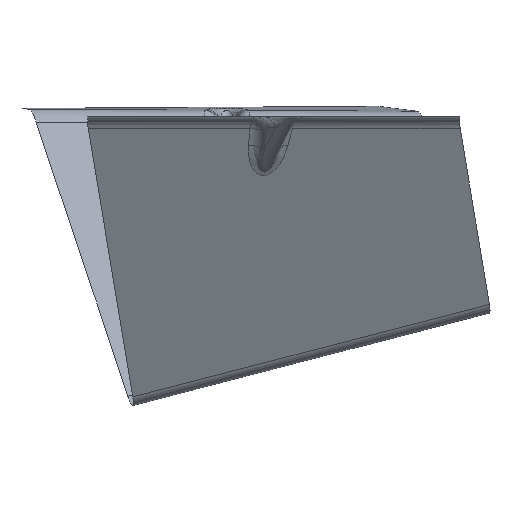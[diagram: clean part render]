
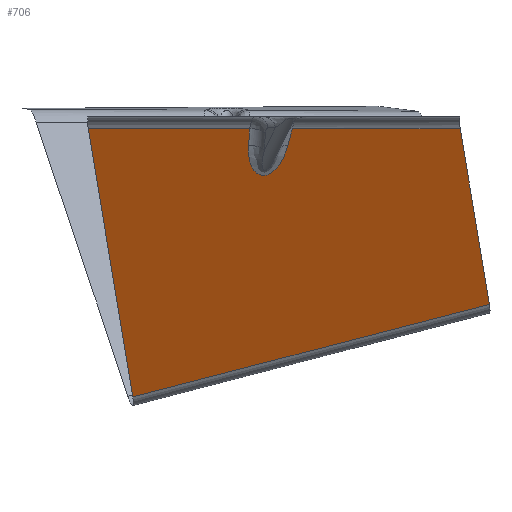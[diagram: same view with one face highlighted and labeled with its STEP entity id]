
A CAD part, left-side view. The second image highlights one B-rep face of the part: STEP entity #706.
In plain terms, the highlighted planar face has unit normal (-0.83, -0.249, -0.5).
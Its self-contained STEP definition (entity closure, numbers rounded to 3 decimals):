
#251=CARTESIAN_POINT('Vertex',(-80.11,6.505,-1.7)) ;
#274=CARTESIAN_POINT('Line Origine',(-64.509,8.338,-28.494)) ;
#278=CARTESIAN_POINT('Vertex',(-77.478,6.814,-6.22)) ;
#591=CARTESIAN_POINT('Control Point',(-74.309,-3.75,-6.22)) ;
#592=CARTESIAN_POINT('Control Point',(-74.115,-3.653,-6.59)) ;
#593=CARTESIAN_POINT('Control Point',(-73.924,-3.545,-6.961)) ;
#594=CARTESIAN_POINT('Control Point',(-73.737,-3.427,-7.33)) ;
#595=CARTESIAN_POINT('Control Point',(-73.375,-3.173,-8.057)) ;
#596=CARTESIAN_POINT('Control Point',(-73.03,-2.874,-8.778)) ;
#597=CARTESIAN_POINT('Control Point',(-72.864,-2.716,-9.133)) ;
#598=CARTESIAN_POINT('Control Point',(-72.557,-2.392,-9.802)) ;
#599=CARTESIAN_POINT('Control Point',(-72.271,-2.018,-10.463)) ;
#600=CARTESIAN_POINT('Control Point',(-72.141,-1.829,-10.773)) ;
#601=CARTESIAN_POINT('Control Point',(-71.91,-1.455,-11.343)) ;
#602=CARTESIAN_POINT('Control Point',(-71.704,-1.029,-11.897)) ;
#603=CARTESIAN_POINT('Control Point',(-71.615,-0.821,-12.147)) ;
#604=CARTESIAN_POINT('Control Point',(-71.42,-0.286,-12.737)) ;
#605=CARTESIAN_POINT('Control Point',(-71.279,0.343,-13.283)) ;
#606=CARTESIAN_POINT('Control Point',(-71.221,0.756,-13.586)) ;
#607=CARTESIAN_POINT('Control Point',(-71.195,1.375,-13.936)) ;
#608=CARTESIAN_POINT('Control Point',(-71.281,2.075,-14.142)) ;
#609=CARTESIAN_POINT('Control Point',(-71.311,2.254,-14.183)) ;
#610=CARTESIAN_POINT('Control Point',(-71.379,2.585,-14.234)) ;
#611=CARTESIAN_POINT('Control Point',(-71.474,2.915,-14.24)) ;
#612=CARTESIAN_POINT('Control Point',(-71.522,3.062,-14.234)) ;
#613=CARTESIAN_POINT('Control Point',(-71.622,3.337,-14.204)) ;
#614=CARTESIAN_POINT('Control Point',(-71.737,3.597,-14.144)) ;
#615=CARTESIAN_POINT('Control Point',(-71.794,3.717,-14.109)) ;
#616=CARTESIAN_POINT('Control Point',(-72.066,4.248,-13.922)) ;
#617=CARTESIAN_POINT('Control Point',(-72.372,4.684,-13.631)) ;
#618=CARTESIAN_POINT('Control Point',(-72.617,4.973,-13.368)) ;
#619=CARTESIAN_POINT('Control Point',(-73.029,5.392,-12.894)) ;
#620=CARTESIAN_POINT('Control Point',(-73.437,5.719,-12.38)) ;
#621=CARTESIAN_POINT('Control Point',(-73.604,5.84,-12.162)) ;
#622=CARTESIAN_POINT('Control Point',(-73.985,6.092,-11.656)) ;
#623=CARTESIAN_POINT('Control Point',(-74.359,6.289,-11.133)) ;
#624=CARTESIAN_POINT('Control Point',(-74.567,6.385,-10.836)) ;
#625=CARTESIAN_POINT('Control Point',(-75.032,6.572,-10.157)) ;
#626=CARTESIAN_POINT('Control Point',(-75.487,6.7,-9.467)) ;
#627=CARTESIAN_POINT('Control Point',(-75.736,6.754,-9.08)) ;
#628=CARTESIAN_POINT('Control Point',(-76.244,6.837,-8.279)) ;
#629=CARTESIAN_POINT('Control Point',(-76.738,6.86,-7.471)) ;
#630=CARTESIAN_POINT('Control Point',(-76.989,6.858,-7.054)) ;
#631=CARTESIAN_POINT('Control Point',(-77.235,6.843,-6.637)) ;
#632=CARTESIAN_POINT('Control Point',(-77.478,6.814,-6.22)) ;
#633=CARTESIAN_POINT('Vertex',(-74.309,-3.75,-6.22)) ;
#651=CARTESIAN_POINT('Axis2P3D Location',(-35.983,-10.795,-66.297)) ;
#656=CARTESIAN_POINT('Line Origine',(-75.492,-4.346,-3.96)) ;
#660=CARTESIAN_POINT('Vertex',(-76.676,-4.941,-1.7)) ;
#663=CARTESIAN_POINT('Line Origine',(-86.623,28.213,-1.7)) ;
#667=CARTESIAN_POINT('Vertex',(-93.135,49.922,-1.7)) ;
#670=CARTESIAN_POINT('Line Origine',(-69.62,43.943,-37.736)) ;
#674=CARTESIAN_POINT('Vertex',(-46.105,37.965,-73.772)) ;
#677=CARTESIAN_POINT('Line Origine',(-39.224,-9.971,-61.329)) ;
#681=CARTESIAN_POINT('Vertex',(-32.344,-57.907,-48.887)) ;
#684=CARTESIAN_POINT('Line Origine',(-47.739,-53.992,-25.293)) ;
#688=CARTESIAN_POINT('Vertex',(-63.135,-50.078,-1.7)) ;
#691=CARTESIAN_POINT('Line Origine',(-69.906,-27.51,-1.7)) ;
#275=DIRECTION('Vector Direction',(0.502,0.059,-0.863)) ;
#652=DIRECTION('Axis2P3D Direction',(0.83,0.249,0.5)) ;
#653=DIRECTION('Axis2P3D XDirection',(0.541,-0.138,-0.83)) ;
#657=DIRECTION('Vector Direction',(-0.452,-0.227,0.863)) ;
#664=DIRECTION('Vector Direction',(0.287,-0.958,0.)) ;
#671=DIRECTION('Vector Direction',(0.541,-0.138,-0.83)) ;
#678=DIRECTION('Vector Direction',(0.138,-0.959,0.249)) ;
#685=DIRECTION('Vector Direction',(-0.541,0.138,0.83)) ;
#692=DIRECTION('Vector Direction',(0.287,-0.958,0.)) ;
#654=AXIS2_PLACEMENT_3D('Plane Axis2P3D',#651,#652,#653) ;
#697=ORIENTED_EDGE('',*,*,#662,.T.) ;
#698=ORIENTED_EDGE('',*,*,#635,.T.) ;
#699=ORIENTED_EDGE('',*,*,#280,.T.) ;
#700=ORIENTED_EDGE('',*,*,#669,.F.) ;
#701=ORIENTED_EDGE('',*,*,#676,.T.) ;
#702=ORIENTED_EDGE('',*,*,#683,.T.) ;
#703=ORIENTED_EDGE('',*,*,#690,.T.) ;
#704=ORIENTED_EDGE('',*,*,#695,.F.) ;
#276=VECTOR('Line Direction',#275,1.) ;
#658=VECTOR('Line Direction',#657,1.) ;
#665=VECTOR('Line Direction',#664,1.) ;
#672=VECTOR('Line Direction',#671,1.) ;
#679=VECTOR('Line Direction',#678,1.) ;
#686=VECTOR('Line Direction',#685,1.) ;
#693=VECTOR('Line Direction',#692,1.) ;
#706=ADVANCED_FACE('Extract.1',(#705),#655,.F.) ;
#590=B_SPLINE_CURVE_WITH_KNOTS('',5,(#591,#592,#593,#594,#595,#596,#597,#598,#599,#600,#601,#602,#603,#604,#605,#606,#607,#608,#609,#610,#611,#612,#613,#614,#615,#616,#617,#618,#619,#620,#621,#622,#623,#624,#625,#626,#627,#628,#629,#630,#631,#632),.UNSPECIFIED.,.F.,.U.,(6,3,3,3,3,3,3,3,3,3,3,3,3,6),(19.804,22.672,25.451,27.965,30.103,33.108,34.11,34.927,35.672,38.353,40.242,42.673,45.726,48.96),.UNSPECIFIED.) ;
#280=EDGE_CURVE('',#279,#252,#277,.F.) ;
#635=EDGE_CURVE('',#634,#279,#590,.T.) ;
#662=EDGE_CURVE('',#661,#634,#659,.F.) ;
#669=EDGE_CURVE('',#668,#252,#666,.T.) ;
#676=EDGE_CURVE('',#668,#675,#673,.T.) ;
#683=EDGE_CURVE('',#675,#682,#680,.T.) ;
#690=EDGE_CURVE('',#682,#689,#687,.T.) ;
#695=EDGE_CURVE('',#661,#689,#694,.T.) ;
#696=EDGE_LOOP('',(#697,#698,#699,#700,#701,#702,#703,#704)) ;
#705=FACE_OUTER_BOUND('',#696,.T.) ;
#277=LINE('Line',#274,#276) ;
#659=LINE('Line',#656,#658) ;
#666=LINE('Line',#663,#665) ;
#673=LINE('Line',#670,#672) ;
#680=LINE('Line',#677,#679) ;
#687=LINE('Line',#684,#686) ;
#694=LINE('Line',#691,#693) ;
#655=PLANE('',#654) ;
#252=VERTEX_POINT('',#251) ;
#279=VERTEX_POINT('',#278) ;
#634=VERTEX_POINT('',#633) ;
#661=VERTEX_POINT('',#660) ;
#668=VERTEX_POINT('',#667) ;
#675=VERTEX_POINT('',#674) ;
#682=VERTEX_POINT('',#681) ;
#689=VERTEX_POINT('',#688) ;
